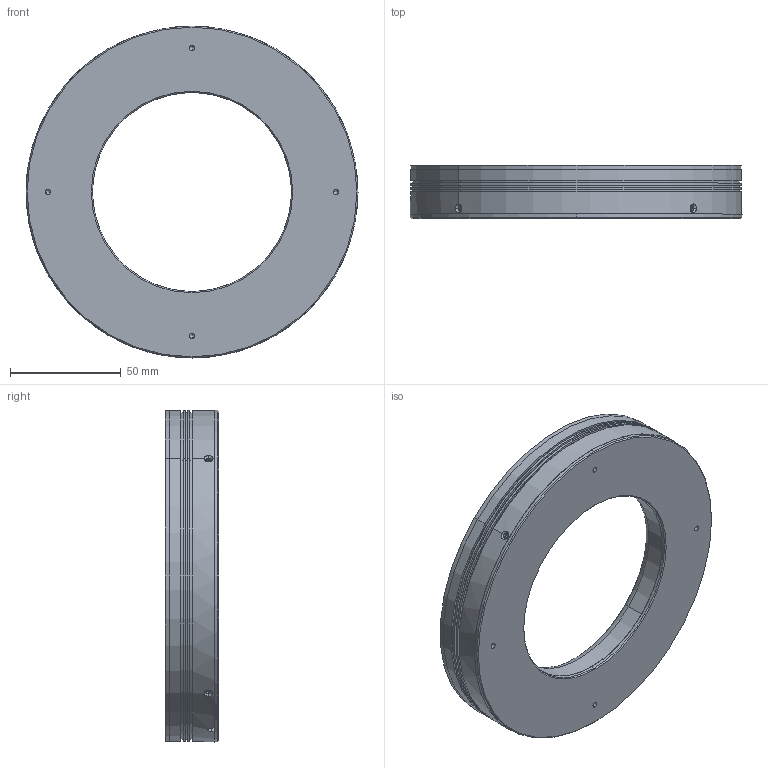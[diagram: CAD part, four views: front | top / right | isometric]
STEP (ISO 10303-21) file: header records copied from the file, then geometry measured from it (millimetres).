
FILE_DESCRIPTION (( 'STEP AP203' ), '1' );
FILE_NAME ('P-RL-150-60-00.STEP', '2025-09-16T10:40:19', ( '' ), ( '' ), 'SwSTEP 2.0', 'SolidWorks 2022', '' );
FILE_SCHEMA (( 'CONFIG_CONTROL_DESIGN' ));
Length unit declared in the file: millimetre
Products named in the file (4): P-RL-150-60-001; P-RL-150-60-002; P-RL-150-60; P-RL-150-60-00
Assembly tree (3 placements, depth 2):
  P-RL-150-60-00
    P-RL-150-60-001
    P-RL-150-60-002
    P-RL-150-60
Bounding box: 150 x 24 x 150 mm (x, y, z)
Volume: 138584.9 mm3; surface area: 91505.8 mm2
Topology: 3 solids, 3 shells, 165 faces, 395 edges, 232 vertices
Faces by surface type: cylinder 82, cone 53, plane 22, torus 8
Entity records: 5585 total; most frequent: CARTESIAN_POINT 1355, DIRECTION 861, ORIENTED_EDGE 742, EDGE_CURVE 371, AXIS2_PLACEMENT_3D 358, VERTEX_POINT 232, EDGE_LOOP 207, CIRCLE 187
